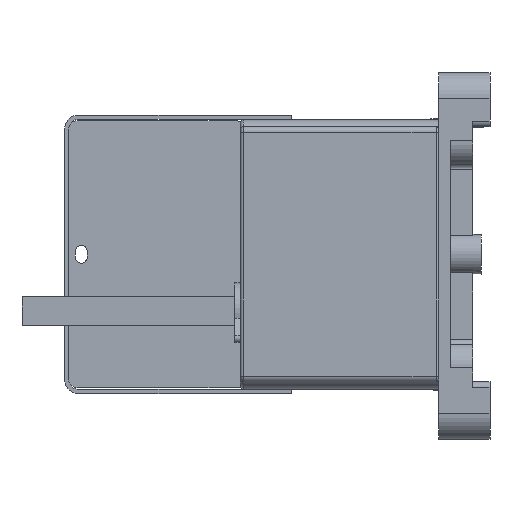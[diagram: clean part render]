
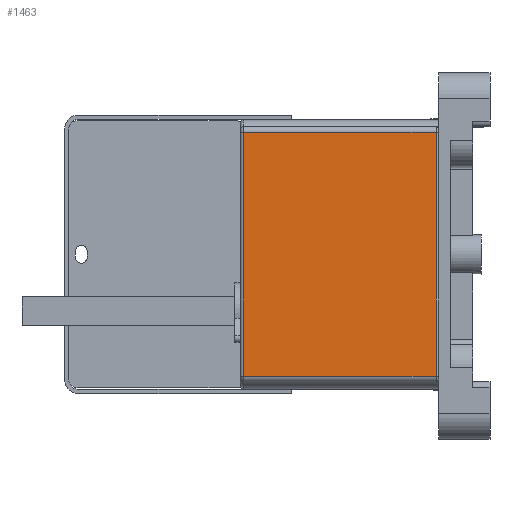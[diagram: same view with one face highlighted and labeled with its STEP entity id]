
A CAD part, left-side view. The second image highlights one B-rep face of the part: STEP entity #1463.
In plain terms, the highlighted planar face has unit normal (-1, 0, 0).
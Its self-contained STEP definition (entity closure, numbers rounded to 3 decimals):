
#1463=ADVANCED_FACE('',(#2792),#2028,.F.);
#2028=PLANE('',#18080);
#2792=FACE_OUTER_BOUND('',#3795,.T.);
#3795=EDGE_LOOP('',(#8850,#8851,#8852,#8853));
#8850=ORIENTED_EDGE('',*,*,#13151,.F.);
#8851=ORIENTED_EDGE('',*,*,#13137,.T.);
#8852=ORIENTED_EDGE('',*,*,#13152,.T.);
#8853=ORIENTED_EDGE('',*,*,#12850,.T.);
#10643=VERTEX_POINT('',#26911);
#10645=VERTEX_POINT('',#26917);
#10813=VERTEX_POINT('',#27576);
#10816=VERTEX_POINT('',#27607);
#12850=EDGE_CURVE('',#10643,#10645,#14746,.T.);
#13137=EDGE_CURVE('',#10813,#10816,#14881,.T.);
#13151=EDGE_CURVE('',#10813,#10645,#14887,.T.);
#13152=EDGE_CURVE('',#10816,#10643,#14888,.T.);
#14746=LINE('',#26918,#16458);
#14881=LINE('',#27608,#16593);
#14887=LINE('',#27659,#16599);
#14888=LINE('',#27661,#16600);
#16458=VECTOR('',#21947,1.);
#16593=VECTOR('',#22590,1.);
#16599=VECTOR('',#22616,1.);
#16600=VECTOR('',#22619,1.);
#18080=AXIS2_PLACEMENT_3D('',#27662,#22620,#22621);
#21947=DIRECTION('',(0.,0.,1.));
#22590=DIRECTION('',(0.,0.,-1.));
#22616=DIRECTION('',(0.,-1.,0.));
#22619=DIRECTION('',(0.,-1.,0.));
#22620=DIRECTION('',(1.,0.,0.));
#22621=DIRECTION('',(0.,0.,-1.));
#26911=CARTESIAN_POINT('',(-41.,1.,-43.));
#26917=CARTESIAN_POINT('',(-41.,1.,43.));
#26918=CARTESIAN_POINT('',(-41.,1.,-43.));
#27576=CARTESIAN_POINT('',(-41.,69.,43.));
#27607=CARTESIAN_POINT('',(-41.,69.,-43.));
#27608=CARTESIAN_POINT('',(-41.,69.,-43.));
#27659=CARTESIAN_POINT('',(-41.,35.,43.));
#27661=CARTESIAN_POINT('',(-41.,35.,-43.));
#27662=CARTESIAN_POINT('',(-41.,35.,-43.));
